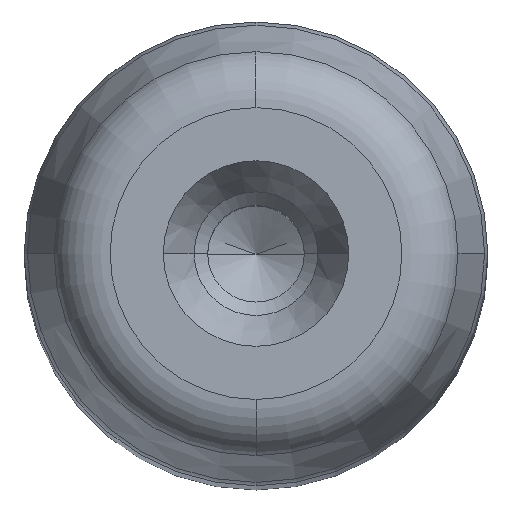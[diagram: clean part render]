
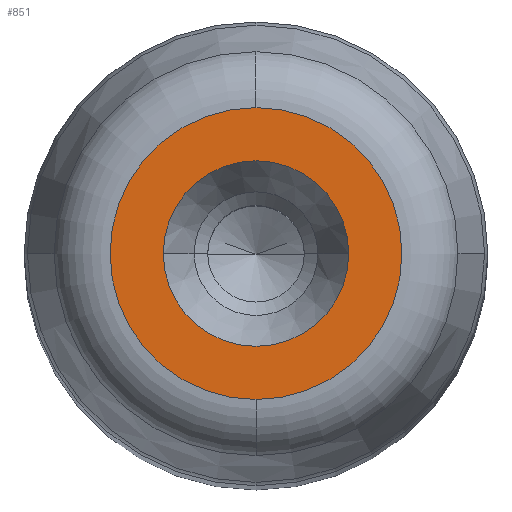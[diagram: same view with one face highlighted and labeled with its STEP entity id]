
A CAD part, top view. The second image highlights one B-rep face of the part: STEP entity #851.
In plain terms, the highlighted planar face has unit normal (0, 0, 1) as drawn and (0, 1, 0) by its records, which use the part's own axes.
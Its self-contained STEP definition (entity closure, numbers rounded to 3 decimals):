
#281=CARTESIAN_POINT('',(4.8,140.0,0.0));
#282=VERTEX_POINT('',#281);
#289=CARTESIAN_POINT('',(-4.8,140.0,0.));
#290=VERTEX_POINT('',#289);
#291=CARTESIAN_POINT('',(0.0,140.0,0.0));
#292=DIRECTION('',(0.0,1.0,0.0));
#293=DIRECTION('',(1.0,0.0,0.0));
#294=AXIS2_PLACEMENT_3D('',#291,#292,#293);
#295=CIRCLE('',#294,4.8);
#296=EDGE_CURVE('',#282,#290,#295,.T.);
#313=CARTESIAN_POINT('',(0.0,140.0,7.554));
#314=VERTEX_POINT('',#313);
#324=CARTESIAN_POINT('',(0.,140.0,-7.554));
#325=VERTEX_POINT('',#324);
#326=CARTESIAN_POINT('',(0.0,140.0,0.0));
#327=DIRECTION('',(0.0,1.0,0.0));
#328=DIRECTION('',(1.0,0.0,0.0));
#329=AXIS2_PLACEMENT_3D('',#326,#327,#328);
#330=CIRCLE('',#329,7.554);
#331=EDGE_CURVE('',#325,#314,#330,.T.);
#812=CARTESIAN_POINT('',(7.554,140.0,0.0));
#813=VERTEX_POINT('',#812);
#814=CARTESIAN_POINT('',(0.0,140.0,0.0));
#815=DIRECTION('',(0.0,1.0,0.0));
#816=DIRECTION('',(1.0,0.0,0.0));
#817=AXIS2_PLACEMENT_3D('',#814,#815,#816);
#818=CIRCLE('',#817,7.554);
#819=EDGE_CURVE('',#813,#325,#818,.T.);
#821=CARTESIAN_POINT('',(0.0,140.0,0.0));
#822=DIRECTION('',(0.0,1.0,0.0));
#823=DIRECTION('',(1.0,0.0,0.0));
#824=AXIS2_PLACEMENT_3D('',#821,#822,#823);
#825=CIRCLE('',#824,7.554);
#826=EDGE_CURVE('',#314,#813,#825,.T.);
#831=CARTESIAN_POINT('',(-8.31,140.0,-8.31));
#832=DIRECTION('',(0.0,1.0,0.0));
#833=DIRECTION('',(0.0,0.0,1.0));
#834=AXIS2_PLACEMENT_3D('',#831,#832,#833);
#835=PLANE('',#834);
#836=ORIENTED_EDGE('',*,*,#819,.T.);
#837=ORIENTED_EDGE('',*,*,#331,.T.);
#838=ORIENTED_EDGE('',*,*,#826,.T.);
#839=EDGE_LOOP('',(#836,#837,#838));
#840=FACE_OUTER_BOUND('',#839,.T.);
#841=ORIENTED_EDGE('',*,*,#296,.F.);
#842=CARTESIAN_POINT('',(0.0,140.0,0.0));
#843=DIRECTION('',(0.0,1.0,0.0));
#844=DIRECTION('',(1.0,0.0,0.0));
#845=AXIS2_PLACEMENT_3D('',#842,#843,#844);
#846=CIRCLE('',#845,4.8);
#847=EDGE_CURVE('',#290,#282,#846,.T.);
#848=ORIENTED_EDGE('',*,*,#847,.F.);
#849=EDGE_LOOP('',(#841,#848));
#850=FACE_BOUND('',#849,.T.);
#851=ADVANCED_FACE('',(#840,#850),#835,.T.);
